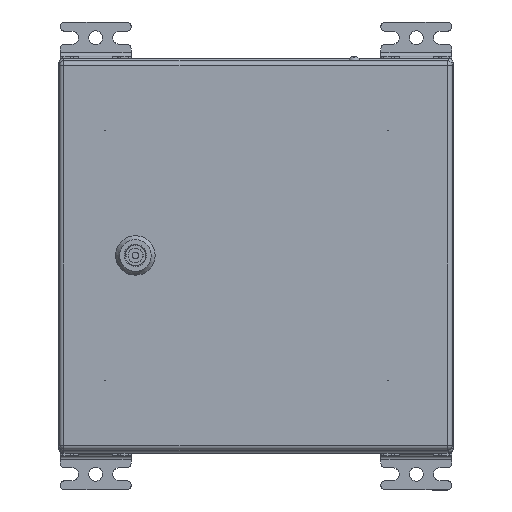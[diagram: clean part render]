
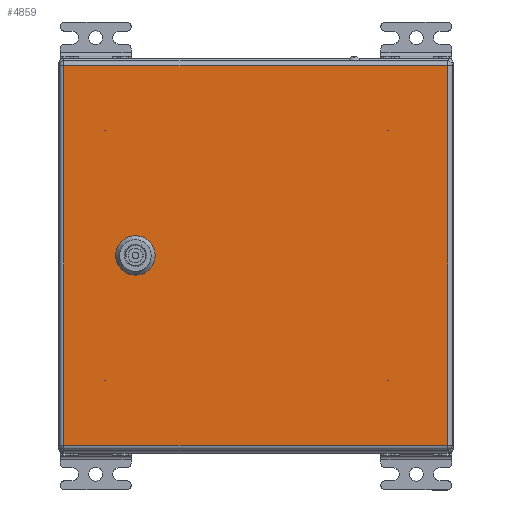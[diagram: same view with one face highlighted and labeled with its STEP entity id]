
A CAD part, top view. The second image highlights one B-rep face of the part: STEP entity #4859.
In plain terms, the highlighted planar face has unit normal (0, 0, 1).
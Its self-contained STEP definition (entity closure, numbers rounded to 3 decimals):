
#4859=ADVANCED_FACE('',(#12430,#12432),#12434,.T.);
#12430=FACE_BOUND('',#12431,.T.);
#12431=EDGE_LOOP('',(#34402,#34403,#34404,#34405));
#12432=FACE_BOUND('',#12433,.T.);
#12433=EDGE_LOOP('',(#34406,#34407,#34408,#34409,#34410,#34411,#34412,#34413));
#12434=PLANE('',#12435);
#12435=AXIS2_PLACEMENT_3D('',#12436,#12437,#12438);
#12436=CARTESIAN_POINT('',(0.,0.,1.5));
#12437=DIRECTION('',(0.,0.,1.));
#12438=DIRECTION('',(1.,0.,0.));
#34402=ORIENTED_EDGE('',*,*,#38472,.T.);
#34403=ORIENTED_EDGE('',*,*,#38473,.T.);
#34404=ORIENTED_EDGE('',*,*,#38474,.T.);
#34405=ORIENTED_EDGE('',*,*,#38475,.T.);
#34406=ORIENTED_EDGE('',*,*,#38434,.T.);
#34407=ORIENTED_EDGE('',*,*,#38449,.T.);
#34408=ORIENTED_EDGE('',*,*,#38447,.T.);
#34409=ORIENTED_EDGE('',*,*,#38445,.T.);
#34410=ORIENTED_EDGE('',*,*,#38443,.T.);
#34411=ORIENTED_EDGE('',*,*,#38441,.T.);
#34412=ORIENTED_EDGE('',*,*,#38439,.T.);
#34413=ORIENTED_EDGE('',*,*,#38437,.T.);
#38434=EDGE_CURVE('',#41764,#41765,#41766,.F.);
#38437=EDGE_CURVE('',#41769,#41764,#41770,.F.);
#38439=EDGE_CURVE('',#41772,#41769,#41773,.F.);
#38441=EDGE_CURVE('',#41775,#41772,#41776,.F.);
#38443=EDGE_CURVE('',#41778,#41775,#41779,.F.);
#38445=EDGE_CURVE('',#41781,#41778,#41782,.F.);
#38447=EDGE_CURVE('',#41784,#41781,#41785,.F.);
#38449=EDGE_CURVE('',#41765,#41784,#41787,.F.);
#38472=EDGE_CURVE('',#41824,#41825,#41826,.T.);
#38473=EDGE_CURVE('',#41825,#41827,#41828,.T.);
#38474=EDGE_CURVE('',#41827,#41829,#41830,.T.);
#38475=EDGE_CURVE('',#41829,#41824,#41831,.T.);
#41764=VERTEX_POINT('',#50782);
#41765=VERTEX_POINT('',#50783);
#41766=LINE('',#50784,#50785);
#41769=VERTEX_POINT('',#50793);
#41770=CIRCLE('',#50794,11.25);
#41772=VERTEX_POINT('',#50801);
#41773=LINE('',#50802,#50803);
#41775=VERTEX_POINT('',#50808);
#41776=CIRCLE('',#50809,11.25);
#41778=VERTEX_POINT('',#50816);
#41779=LINE('',#50817,#50818);
#41781=VERTEX_POINT('',#50823);
#41782=CIRCLE('',#50824,11.25);
#41784=VERTEX_POINT('',#50831);
#41785=LINE('',#50832,#50833);
#41787=CIRCLE('',#50838,11.25);
#41824=VERTEX_POINT('',#50928);
#41825=VERTEX_POINT('',#50929);
#41826=LINE('',#50930,#50931);
#41827=VERTEX_POINT('',#50933);
#41828=LINE('',#50934,#50935);
#41829=VERTEX_POINT('',#50937);
#41830=LINE('',#50938,#50939);
#41831=LINE('',#50941,#50942);
#50782=CARTESIAN_POINT('',(-139.545,-64.6,1.5));
#50783=CARTESIAN_POINT('',(-149.455,-64.6,1.5));
#50784=CARTESIAN_POINT('',(-149.455,-64.6,1.5));
#50785=VECTOR('',#50786,1.);
#50786=DIRECTION('',(1.,0.,0.));
#50793=CARTESIAN_POINT('',(-134.4,-59.455,1.5));
#50794=AXIS2_PLACEMENT_3D('',#50795,#50796,#50797);
#50795=CARTESIAN_POINT('',(-144.5,-54.5,1.5));
#50796=DIRECTION('',(0.,0.,1.));
#50797=DIRECTION('',(0.44,-0.898,0.));
#50801=CARTESIAN_POINT('',(-134.4,-49.545,1.5));
#50802=CARTESIAN_POINT('',(-134.4,-59.455,1.5));
#50803=VECTOR('',#50804,1.);
#50804=DIRECTION('',(0.,1.,0.));
#50808=CARTESIAN_POINT('',(-139.545,-44.4,1.5));
#50809=AXIS2_PLACEMENT_3D('',#50810,#50811,#50812);
#50810=CARTESIAN_POINT('',(-144.5,-54.5,1.5));
#50811=DIRECTION('',(0.,0.,1.));
#50812=DIRECTION('',(0.898,0.44,0.));
#50816=CARTESIAN_POINT('',(-149.455,-44.4,1.5));
#50817=CARTESIAN_POINT('',(-139.545,-44.4,1.5));
#50818=VECTOR('',#50819,1.);
#50819=DIRECTION('',(-1.,0.,0.));
#50823=CARTESIAN_POINT('',(-154.6,-49.545,1.5));
#50824=AXIS2_PLACEMENT_3D('',#50825,#50826,#50827);
#50825=CARTESIAN_POINT('',(-144.5,-54.5,1.5));
#50826=DIRECTION('',(0.,0.,1.));
#50827=DIRECTION('',(-0.44,0.898,0.));
#50831=CARTESIAN_POINT('',(-154.6,-59.455,1.5));
#50832=CARTESIAN_POINT('',(-154.6,-49.545,1.5));
#50833=VECTOR('',#50834,1.);
#50834=DIRECTION('',(0.,-1.,0.));
#50838=AXIS2_PLACEMENT_3D('',#50839,#50840,#50841);
#50839=CARTESIAN_POINT('',(-144.5,-54.5,1.5));
#50840=DIRECTION('',(0.,0.,1.));
#50841=DIRECTION('',(-0.898,-0.44,0.));
#50928=CARTESIAN_POINT('',(-289.,0.,1.5));
#50929=CARTESIAN_POINT('',(-289.,-292.,1.5));
#50930=CARTESIAN_POINT('',(-289.,0.,1.5));
#50931=VECTOR('',#50932,1.);
#50932=DIRECTION('',(0.,-1.,0.));
#50933=CARTESIAN_POINT('',(0.,-292.,1.5));
#50934=CARTESIAN_POINT('',(-289.,-292.,1.5));
#50935=VECTOR('',#50936,1.);
#50936=DIRECTION('',(1.,0.,0.));
#50937=CARTESIAN_POINT('',(0.,0.,1.5));
#50938=CARTESIAN_POINT('',(0.,-292.,1.5));
#50939=VECTOR('',#50940,1.);
#50940=DIRECTION('',(0.,1.,0.));
#50941=CARTESIAN_POINT('',(0.,0.,1.5));
#50942=VECTOR('',#50943,1.);
#50943=DIRECTION('',(-1.,0.,0.));
